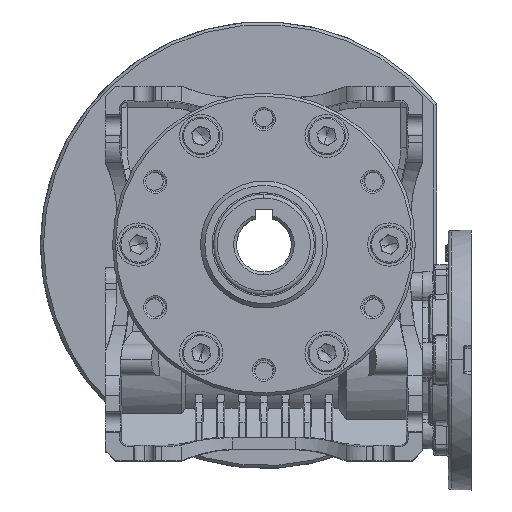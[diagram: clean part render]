
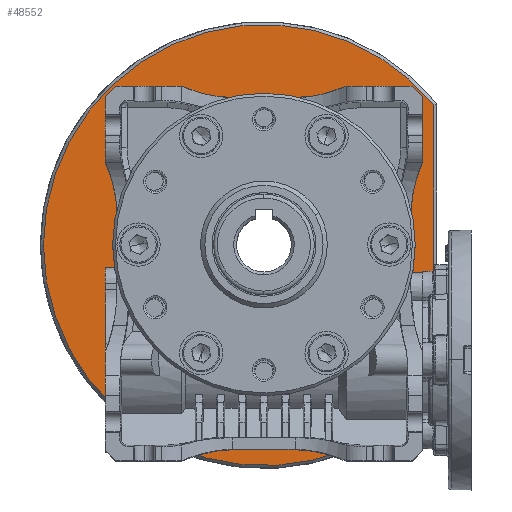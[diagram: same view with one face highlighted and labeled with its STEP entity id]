
A CAD part, top view. The second image highlights one B-rep face of the part: STEP entity #48552.
In plain terms, the highlighted planar face has unit normal (0, 0, 1).
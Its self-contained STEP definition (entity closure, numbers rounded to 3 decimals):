
#1329 = DIRECTION ( 'NONE',  ( 0., 0., 1. ) ) ;
#2994 = DIRECTION ( 'NONE',  ( 1., 0., 0. ) ) ;
#5208 = EDGE_CURVE ( 'NONE', #47664, #117194, #43201, .T. ) ;
#5248 = AXIS2_PLACEMENT_3D ( 'NONE', #90603, #42099, #92573 ) ;
#6693 = DIRECTION ( 'NONE',  ( 1., 0., 0. ) ) ;
#8416 = CARTESIAN_POINT ( 'NONE',  ( 59., -48.695, -61.5 ) ) ;
#10268 = VERTEX_POINT ( 'NONE', #122038 ) ;
#10737 = CARTESIAN_POINT ( 'NONE',  ( 59., 0., -61.5 ) ) ;
#11294 = DIRECTION ( 'NONE',  ( 0., 0., -1. ) ) ;
#12060 = EDGE_LOOP ( 'NONE', ( #103610, #30233 ) ) ;
#12911 = DIRECTION ( 'NONE',  ( 0., 0., -1. ) ) ;
#13582 = DIRECTION ( 'NONE',  ( 1., 0., 0. ) ) ;
#14442 = DIRECTION ( 'NONE',  ( 0., 0., 1. ) ) ;
#14910 = CARTESIAN_POINT ( 'NONE',  ( -45.962, -45.962, -61.5 ) ) ;
#15622 = VERTEX_POINT ( 'NONE', #120960 ) ;
#16870 = CARTESIAN_POINT ( 'NONE',  ( -76.5, 0., -61.5 ) ) ;
#17530 = AXIS2_PLACEMENT_3D ( 'NONE', #99584, #37218, #6693 ) ;
#18847 = CARTESIAN_POINT ( 'NONE',  ( 51.462, -45.962, -61.5 ) ) ;
#19993 = CARTESIAN_POINT ( 'NONE',  ( 45.962, -45.962, -61.5 ) ) ;
#20276 = CIRCLE ( 'NONE', #128358, 76.5 ) ;
#20723 = CARTESIAN_POINT ( 'NONE',  ( 0., 0., -61.5 ) ) ;
#23242 = AXIS2_PLACEMENT_3D ( 'NONE', #82043, #80734, #111252 ) ;
#23704 = CARTESIAN_POINT ( 'NONE',  ( 52.5, 0., -61.5 ) ) ;
#24702 = AXIS2_PLACEMENT_3D ( 'NONE', #46685, #76555, #36703 ) ;
#26360 = CARTESIAN_POINT ( 'NONE',  ( 59., 48.695, -61.5 ) ) ;
#27956 = VERTEX_POINT ( 'NONE', #16870 ) ;
#28607 = FACE_BOUND ( 'NONE', #98922, .T. ) ;
#29264 = PLANE ( 'NONE',  #17530 ) ;
#30233 = ORIENTED_EDGE ( 'NONE', *, *, #40797, .T. ) ;
#31937 = VERTEX_POINT ( 'NONE', #18847 ) ;
#32372 = DIRECTION ( 'NONE',  ( 1., 0., 0. ) ) ;
#34339 = AXIS2_PLACEMENT_3D ( 'NONE', #20723, #81766, #102283 ) ;
#36172 = VERTEX_POINT ( 'NONE', #68722 ) ;
#36703 = DIRECTION ( 'NONE',  ( 1., 0., 0. ) ) ;
#36910 = CARTESIAN_POINT ( 'NONE',  ( -40.462, -45.962, -61.5 ) ) ;
#37218 = DIRECTION ( 'NONE',  ( 0., 0., 1. ) ) ;
#38218 = EDGE_CURVE ( 'NONE', #117194, #27956, #75091, .T. ) ;
#39201 = CIRCLE ( 'NONE', #73119, 5.5 ) ;
#40483 = VECTOR ( 'NONE', #92391, 1000. ) ;
#40797 = EDGE_CURVE ( 'NONE', #15622, #74768, #81628, .T. ) ;
#40891 = EDGE_LOOP ( 'NONE', ( #47891, #105548, #46519 ) ) ;
#40909 = AXIS2_PLACEMENT_3D ( 'NONE', #112739, #59113, #110797 ) ;
#41735 = EDGE_LOOP ( 'NONE', ( #76002, #84274 ) ) ;
#42099 = DIRECTION ( 'NONE',  ( 0., 0., -1. ) ) ;
#43201 = LINE ( 'NONE', #10737, #40483 ) ;
#43250 = EDGE_CURVE ( 'NONE', #89888, #10268, #89003, .T. ) ;
#46454 = EDGE_CURVE ( 'NONE', #123205, #117333, #117109, .T. ) ;
#46519 = ORIENTED_EDGE ( 'NONE', *, *, #5208, .T. ) ;
#46685 = CARTESIAN_POINT ( 'NONE',  ( -45.962, -45.962, -61.5 ) ) ;
#46848 = EDGE_CURVE ( 'NONE', #74768, #15622, #95976, .T. ) ;
#47540 = CIRCLE ( 'NONE', #121720, 5.5 ) ;
#47664 = VERTEX_POINT ( 'NONE', #8416 ) ;
#47869 = FACE_BOUND ( 'NONE', #124204, .T. ) ;
#47891 = ORIENTED_EDGE ( 'NONE', *, *, #38218, .T. ) ;
#48036 = CIRCLE ( 'NONE', #24702, 5.5 ) ;
#48552 = ADVANCED_FACE ( 'NONE', ( #77755, #70361, #28607, #97628, #47869, #128819 ), #29264, .T. ) ;
#49942 = ORIENTED_EDGE ( 'NONE', *, *, #74691, .T. ) ;
#53889 = AXIS2_PLACEMENT_3D ( 'NONE', #14910, #95881, #2994 ) ;
#57191 = AXIS2_PLACEMENT_3D ( 'NONE', #78966, #119447, #69019 ) ;
#59113 = DIRECTION ( 'NONE',  ( 0., 0., -1. ) ) ;
#62873 = VERTEX_POINT ( 'NONE', #103928 ) ;
#68722 = CARTESIAN_POINT ( 'NONE',  ( -51.462, -45.962, -61.5 ) ) ;
#69019 = DIRECTION ( 'NONE',  ( 1., 0., 0. ) ) ;
#70173 = ORIENTED_EDGE ( 'NONE', *, *, #43250, .T. ) ;
#70361 = FACE_BOUND ( 'NONE', #41735, .T. ) ;
#71263 = CARTESIAN_POINT ( 'NONE',  ( -51.462, 45.962, -61.5 ) ) ;
#73119 = AXIS2_PLACEMENT_3D ( 'NONE', #115815, #12911, #13582 ) ;
#73290 = VERTEX_POINT ( 'NONE', #36910 ) ;
#73385 = CARTESIAN_POINT ( 'NONE',  ( -52.5, 0., -61.5 ) ) ;
#74691 = EDGE_CURVE ( 'NONE', #36172, #73290, #96318, .T. ) ;
#74768 = VERTEX_POINT ( 'NONE', #71263 ) ;
#75091 = CIRCLE ( 'NONE', #117446, 76.5 ) ;
#75164 = CARTESIAN_POINT ( 'NONE',  ( 0., 0., -61.5 ) ) ;
#76002 = ORIENTED_EDGE ( 'NONE', *, *, #116486, .T. ) ;
#76555 = DIRECTION ( 'NONE',  ( 0., 0., -1. ) ) ;
#77477 = EDGE_CURVE ( 'NONE', #73290, #36172, #48036, .T. ) ;
#77755 = FACE_BOUND ( 'NONE', #103771, .T. ) ;
#78966 = CARTESIAN_POINT ( 'NONE',  ( 45.962, 45.962, -61.5 ) ) ;
#80734 = DIRECTION ( 'NONE',  ( 0., 0., -1. ) ) ;
#81628 = CIRCLE ( 'NONE', #5248, 5.5 ) ;
#81766 = DIRECTION ( 'NONE',  ( 0., 0., 1. ) ) ;
#81860 = CARTESIAN_POINT ( 'NONE',  ( 51.462, 45.962, -61.5 ) ) ;
#82043 = CARTESIAN_POINT ( 'NONE',  ( 45.962, 45.962, -61.5 ) ) ;
#82446 = EDGE_CURVE ( 'NONE', #10268, #89888, #103781, .T. ) ;
#83581 = CARTESIAN_POINT ( 'NONE',  ( 0., 0., -61.5 ) ) ;
#84274 = ORIENTED_EDGE ( 'NONE', *, *, #90182, .T. ) ;
#89003 = CIRCLE ( 'NONE', #57191, 5.5 ) ;
#89888 = VERTEX_POINT ( 'NONE', #81860 ) ;
#90182 = EDGE_CURVE ( 'NONE', #31937, #62873, #47540, .T. ) ;
#90603 = CARTESIAN_POINT ( 'NONE',  ( -45.962, 45.962, -61.5 ) ) ;
#91235 = ORIENTED_EDGE ( 'NONE', *, *, #82446, .T. ) ;
#91944 = EDGE_CURVE ( 'NONE', #27956, #47664, #20276, .T. ) ;
#92391 = DIRECTION ( 'NONE',  ( 0., 1., 0. ) ) ;
#92573 = DIRECTION ( 'NONE',  ( 1., 0., 0. ) ) ;
#92953 = DIRECTION ( 'NONE',  ( 1., 0., 0. ) ) ;
#94097 = CARTESIAN_POINT ( 'NONE',  ( 0., 0., -61.5 ) ) ;
#95881 = DIRECTION ( 'NONE',  ( 0., 0., -1. ) ) ;
#95976 = CIRCLE ( 'NONE', #40909, 5.5 ) ;
#96318 = CIRCLE ( 'NONE', #53889, 5.5 ) ;
#97628 = FACE_BOUND ( 'NONE', #12060, .T. ) ;
#98922 = EDGE_LOOP ( 'NONE', ( #49942, #111808 ) ) ;
#99584 = CARTESIAN_POINT ( 'NONE',  ( 0., 0., -61.5 ) ) ;
#101537 = DIRECTION ( 'NONE',  ( 1., 0., 0. ) ) ;
#102283 = DIRECTION ( 'NONE',  ( 1., 0., 0. ) ) ;
#103610 = ORIENTED_EDGE ( 'NONE', *, *, #46848, .T. ) ;
#103771 = EDGE_LOOP ( 'NONE', ( #118952, #129693 ) ) ;
#103781 = CIRCLE ( 'NONE', #23242, 5.5 ) ;
#103928 = CARTESIAN_POINT ( 'NONE',  ( 40.462, -45.962, -61.5 ) ) ;
#105548 = ORIENTED_EDGE ( 'NONE', *, *, #91944, .T. ) ;
#108307 = DIRECTION ( 'NONE',  ( 0., 0., 1. ) ) ;
#110797 = DIRECTION ( 'NONE',  ( 1., 0., 0. ) ) ;
#111252 = DIRECTION ( 'NONE',  ( 1., 0., 0. ) ) ;
#111808 = ORIENTED_EDGE ( 'NONE', *, *, #77477, .T. ) ;
#112739 = CARTESIAN_POINT ( 'NONE',  ( -45.962, 45.962, -61.5 ) ) ;
#115815 = CARTESIAN_POINT ( 'NONE',  ( 45.962, -45.962, -61.5 ) ) ;
#116486 = EDGE_CURVE ( 'NONE', #62873, #31937, #39201, .T. ) ;
#116936 = DIRECTION ( 'NONE',  ( 1., 0., 0. ) ) ;
#117109 = CIRCLE ( 'NONE', #34339, 52.5 ) ;
#117194 = VERTEX_POINT ( 'NONE', #26360 ) ;
#117333 = VERTEX_POINT ( 'NONE', #23704 ) ;
#117446 = AXIS2_PLACEMENT_3D ( 'NONE', #83581, #1329, #101537 ) ;
#118952 = ORIENTED_EDGE ( 'NONE', *, *, #122493, .F. ) ;
#119447 = DIRECTION ( 'NONE',  ( 0., 0., -1. ) ) ;
#120960 = CARTESIAN_POINT ( 'NONE',  ( -40.462, 45.962, -61.5 ) ) ;
#121720 = AXIS2_PLACEMENT_3D ( 'NONE', #19993, #11294, #92953 ) ;
#122038 = CARTESIAN_POINT ( 'NONE',  ( 40.462, 45.962, -61.5 ) ) ;
#122493 = EDGE_CURVE ( 'NONE', #117333, #123205, #122897, .T. ) ;
#122897 = CIRCLE ( 'NONE', #129328, 52.5 ) ;
#123205 = VERTEX_POINT ( 'NONE', #73385 ) ;
#124204 = EDGE_LOOP ( 'NONE', ( #91235, #70173 ) ) ;
#128358 = AXIS2_PLACEMENT_3D ( 'NONE', #94097, #14442, #32372 ) ;
#128819 = FACE_OUTER_BOUND ( 'NONE', #40891, .T. ) ;
#129328 = AXIS2_PLACEMENT_3D ( 'NONE', #75164, #108307, #116936 ) ;
#129693 = ORIENTED_EDGE ( 'NONE', *, *, #46454, .F. ) ;
